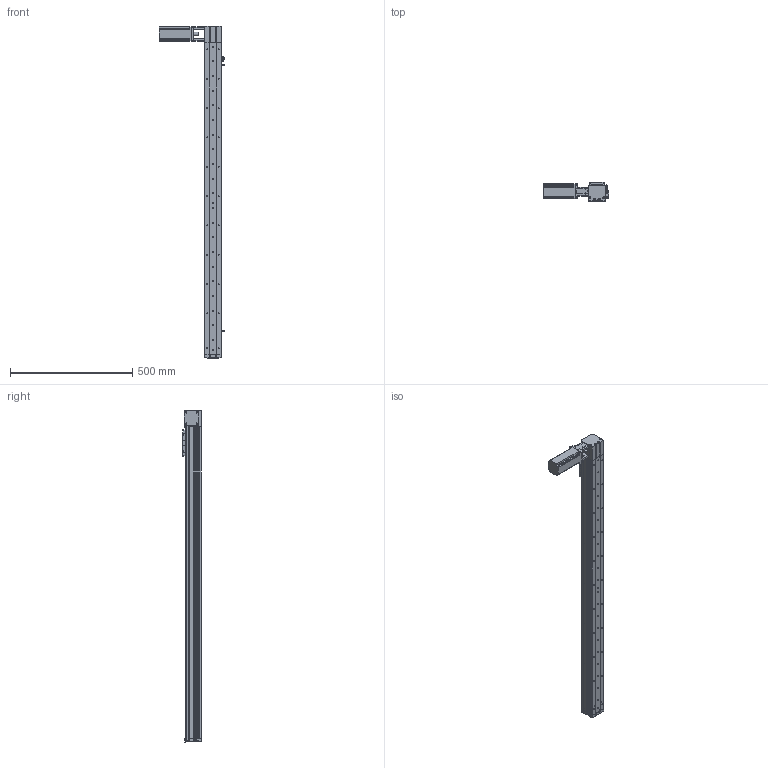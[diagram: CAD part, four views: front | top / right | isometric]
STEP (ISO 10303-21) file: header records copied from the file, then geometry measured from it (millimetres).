
FILE_DESCRIPTION (( 'STEP AP214' ), '1' );
FILE_NAME ('KSD68BS-S1100-MLT-CR.STEP', '2019-08-28T03:40:31', ( '微软用户' ), ( '微软中国' ), 'SwSTEP 2.0', 'SolidWorks 2014', '' );
FILE_SCHEMA (( 'AUTOMOTIVE_DESIGN' ));
Length unit declared in the file: millimetre
Products named in the file (13): 100遵鎮湛假蚾啣1; KSD68BS 1100行程盖板全封闭; 68遵裔啣揤啣1; 68宽单导轨全封闭丝杆传动安装板1防护罩; KSD68BS 1100行程侧板全封闭; 68宽单导轨全封闭同步带端板; 68单导轨全封闭同步带电机座右; 68单导轨全封闭同步带安装板; 感应片68宽全封闭; U倰嫖萇EEㄜSX672; 台达ECMA－C20604AS伺服电机（400W); KSD68BS 1100行程底板全封闭; KSD68BS-S1100-MLT-CR
Assembly tree (16 placements, depth 2):
  KSD68BS-S1100-MLT-CR
    KSD68BS 1100行程底板全封闭
    台达ECMA－C20604AS伺服电机（400W)
    U倰嫖萇EEㄜSX672  x3
    感应片68宽全封闭
    68单导轨全封闭同步带安装板
    68单导轨全封闭同步带电机座右
    68宽单导轨全封闭同步带端板
    KSD68BS 1100行程侧板全封闭  x2
    68宽单导轨全封闭丝杆传动安装板1防护罩
    68遵裔啣揤啣1  x2
    KSD68BS 1100行程盖板全封闭
    100遵鎮湛假蚾啣1
Bounding box: 266.4 x 77 x 1358.1 mm (x, y, z)
Volume: 2620160.6 mm3; surface area: 997783.7 mm2
Topology: 17 solids, 17 shells, 1484 faces, 4240 edges, 2703 vertices
Faces by surface type: cylinder 708, plane 604, cone 172
Entity records: 47389 total; most frequent: CARTESIAN_POINT 8115, DIRECTION 7024, ORIENTED_EDGE 6716, EDGE_CURVE 3358, AXIS2_PLACEMENT_3D 2546, VERTEX_POINT 2201, LINE 1932, VECTOR 1932
